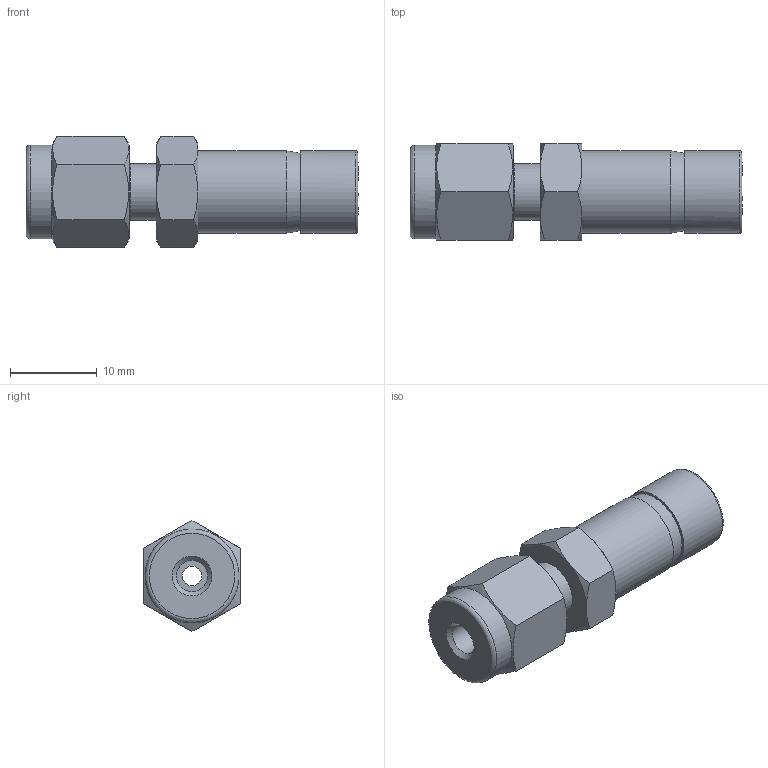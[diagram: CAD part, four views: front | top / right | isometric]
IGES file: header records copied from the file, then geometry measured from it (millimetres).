
Global section: file name: SR-2-6; native system: Autodesk Inventor 2016; preprocessor: unknown; author: DESIGNPC2; date: 20151111.154808; units: millimetre
Bounding box: 38.36 x 11.11 x 12.83 mm (x, y, z)
Volume: 2278.4 mm3; surface area: 2162.4 mm2
Topology: 1 solids, 1 shells, 41 faces, 111 edges, 77 vertices
Faces by surface type: bspline 41
